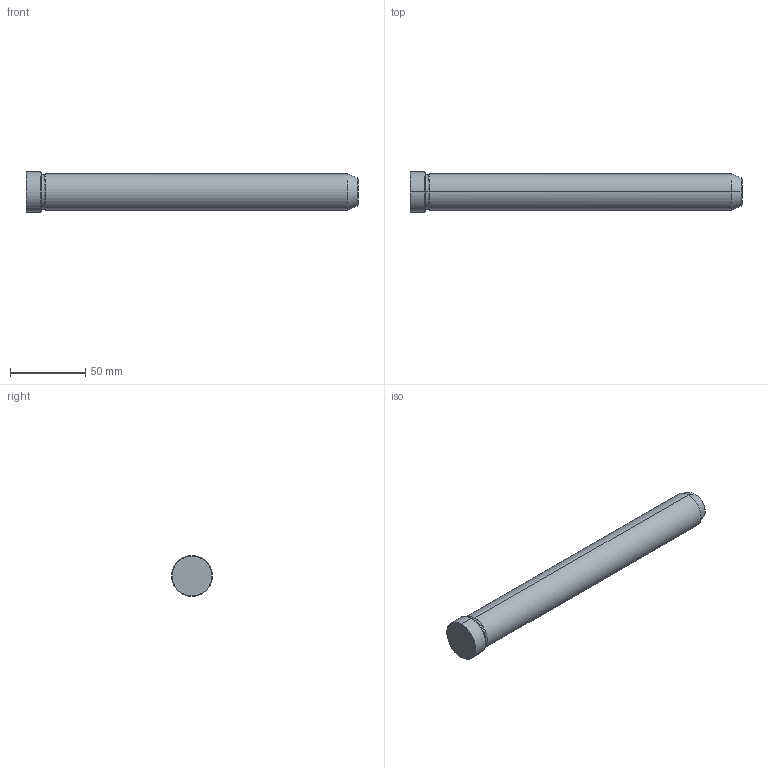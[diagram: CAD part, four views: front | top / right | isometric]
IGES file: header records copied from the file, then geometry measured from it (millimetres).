
Start section: START RECORD GO HERE.
Global section: file name: 549-24X220.igs; native system: DASSAULT SYSTEMES CATIA V5 R20 - www.3ds.com; preprocessor: CATIA Version 5 Release 20 ; author: Utente; organization: NB04-ASUS; date: 20211213.142109; units: millimetre
Bounding box: 220 x 27 x 27 mm (x, y, z)
Surface area: 17612.8 mm2 (no closed solid volume)
Topology: 0 solids, 0 shells, 19 faces, 112 edges, 112 vertices
Faces by surface type: revolution 16, plane 3
